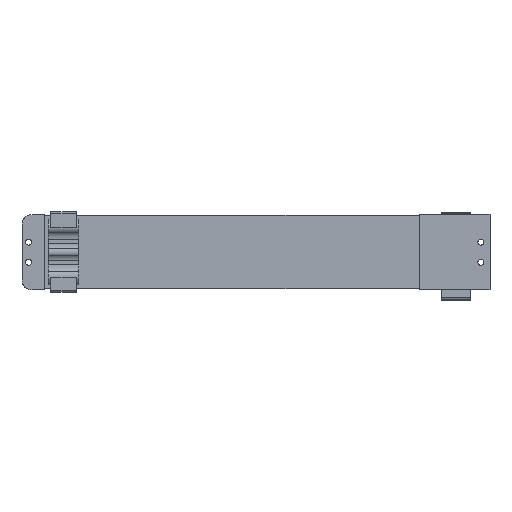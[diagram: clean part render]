
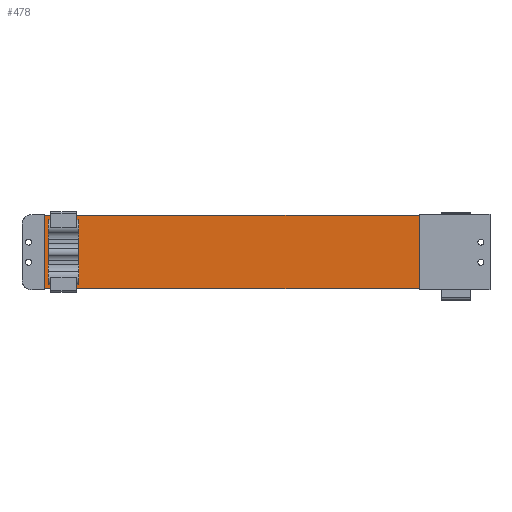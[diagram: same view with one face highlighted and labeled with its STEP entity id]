
A CAD part, front view. The second image highlights one B-rep face of the part: STEP entity #478.
In plain terms, the highlighted planar face has unit normal (0, -1, 0).
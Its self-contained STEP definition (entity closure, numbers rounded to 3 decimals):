
#478 = ADVANCED_FACE( '', ( #1023 ), #1024, .F. );
#1023 = FACE_OUTER_BOUND( '', #1689, .T. );
#1024 = PLANE( '', #1690 );
#1689 = EDGE_LOOP( '', ( #2832, #2833, #2834, #2835 ) );
#1690 = AXIS2_PLACEMENT_3D( '', #2836, #2837, #2838 );
#2832 = ORIENTED_EDGE( '', *, *, #4350, .T. );
#2833 = ORIENTED_EDGE( '', *, *, #4233, .F. );
#2834 = ORIENTED_EDGE( '', *, *, #4419, .F. );
#2835 = ORIENTED_EDGE( '', *, *, #4420, .T. );
#2836 = CARTESIAN_POINT( '', ( 754.25, 11.8, 73. ) );
#2837 = DIRECTION( '', ( 0., 1., 0. ) );
#2838 = DIRECTION( '', ( 0., 0., 1. ) );
#4233 = EDGE_CURVE( '', #5162, #5157, #5164, .T. );
#4350 = EDGE_CURVE( '', #5346, #5157, #5347, .T. );
#4419 = EDGE_CURVE( '', #5452, #5162, #5453, .T. );
#4420 = EDGE_CURVE( '', #5452, #5346, #5454, .T. );
#5157 = VERTEX_POINT( '', #6571 );
#5162 = VERTEX_POINT( '', #6578 );
#5164 = LINE( '', #6581, #6582 );
#5346 = VERTEX_POINT( '', #7003 );
#5347 = LINE( '', #7004, #7005 );
#5452 = VERTEX_POINT( '', #7139 );
#5453 = LINE( '', #7140, #7141 );
#5454 = LINE( '', #7142, #7143 );
#6571 = CARTESIAN_POINT( '', ( 0., 11.8, -73. ) );
#6578 = CARTESIAN_POINT( '', ( 754.25, 11.8, -73. ) );
#6581 = CARTESIAN_POINT( '', ( 754.25, 11.8, -73. ) );
#6582 = VECTOR( '', #8245, 1000. );
#7003 = CARTESIAN_POINT( '', ( 0., 11.8, 73. ) );
#7004 = CARTESIAN_POINT( '', ( 0., 11.8, 73. ) );
#7005 = VECTOR( '', #8374, 1000. );
#7139 = CARTESIAN_POINT( '', ( 754.25, 11.8, 73. ) );
#7140 = CARTESIAN_POINT( '', ( 754.25, 11.8, 73. ) );
#7141 = VECTOR( '', #8467, 1000. );
#7142 = CARTESIAN_POINT( '', ( 754.25, 11.8, 73. ) );
#7143 = VECTOR( '', #8468, 1000. );
#8245 = DIRECTION( '', ( -1., 0., 0. ) );
#8374 = DIRECTION( '', ( 0., 0., -1. ) );
#8467 = DIRECTION( '', ( 0., 0., -1. ) );
#8468 = DIRECTION( '', ( -1., 0., 0. ) );
